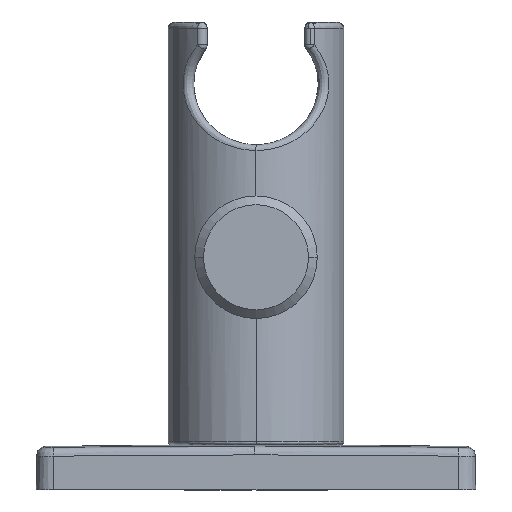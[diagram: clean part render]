
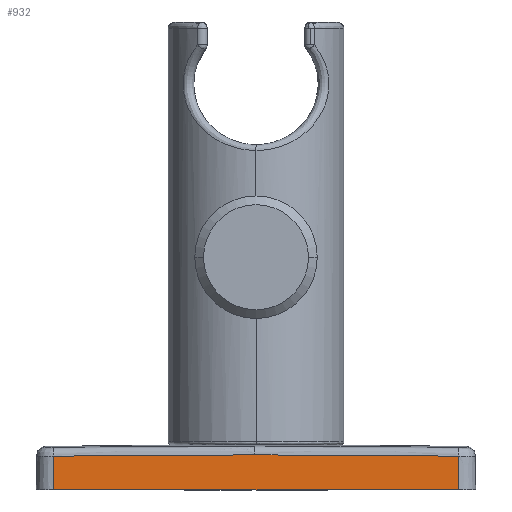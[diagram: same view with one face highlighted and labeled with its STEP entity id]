
A CAD part, front view. The second image highlights one B-rep face of the part: STEP entity #932.
In plain terms, the highlighted planar face has unit normal (0, -1, 0.018).
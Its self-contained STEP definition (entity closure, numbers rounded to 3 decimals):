
#42 = CARTESIAN_POINT ( 'NONE',  ( -34.5, -9047.649, -499000. ) ) ;
#136 = ORIENTED_EDGE ( 'NONE', *, *, #480, .T. ) ;
#169 = VERTEX_POINT ( 'NONE', #2409 ) ;
#373 = DIRECTION ( 'NONE',  ( 0., 0.017, 1. ) ) ;
#408 = EDGE_CURVE ( 'NONE', #1371, #169, #4665, .T. ) ;
#480 = EDGE_CURVE ( 'NONE', #1312, #3260, #1881, .T. ) ;
#517 = CARTESIAN_POINT ( 'NONE',  ( 11.383, -337.39, 10.393 ) ) ;
#555 = AXIS2_PLACEMENT_3D ( 'NONE', #3817, #4201, #2242 ) ;
#657 = FACE_OUTER_BOUND ( 'NONE', #2289, .T. ) ;
#682 = CARTESIAN_POINT ( 'NONE',  ( 34.5, -337.495, 4.405 ) ) ;
#932 = ADVANCED_FACE ( 'NONE', ( #657 ), #1847, .T. ) ;
#1304 = EDGE_CURVE ( 'NONE', #1371, #1671, #1400, .T. ) ;
#1312 = VERTEX_POINT ( 'NONE', #2597 ) ;
#1317 = ORIENTED_EDGE ( 'NONE', *, *, #5001, .T. ) ;
#1371 = VERTEX_POINT ( 'NONE', #682 ) ;
#1377 = CARTESIAN_POINT ( 'NONE',  ( 22.942, -337.391, 10.321 ) ) ;
#1400 = LINE ( 'NONE', #2976, #2984 ) ;
#1429 = ORIENTED_EDGE ( 'NONE', *, *, #408, .T. ) ;
#1522 = DIRECTION ( 'NONE',  ( 0., 0.017, 1. ) ) ;
#1612 = CARTESIAN_POINT ( 'NONE',  ( -11.617, -337.39, 10.392 ) ) ;
#1662 = CARTESIAN_POINT ( 'NONE',  ( -34.5, -337.394, 10.176 ) ) ;
#1671 = VERTEX_POINT ( 'NONE', #2032 ) ;
#1675 = EDGE_CURVE ( 'NONE', #1671, #3260, #3596, .T. ) ;
#1847 = PLANE ( 'NONE',  #555 ) ;
#1881 = B_SPLINE_CURVE_WITH_KNOTS ( 'NONE', 3,
 ( #3879, #1612, #3200, #4768 ),
 .UNSPECIFIED., .F., .F.,
 ( 4, 4 ),
 ( 0.503, 1. ),
 .UNSPECIFIED. ) ;
#2032 = CARTESIAN_POINT ( 'NONE',  ( -34.5, -337.495, 4.405 ) ) ;
#2242 = DIRECTION ( 'NONE',  ( 0., -0.017, -1. ) ) ;
#2289 = EDGE_LOOP ( 'NONE', ( #4044, #3100, #1429, #1317, #136 ) ) ;
#2409 = CARTESIAN_POINT ( 'NONE',  ( 34.5, -337.394, 10.176 ) ) ;
#2595 = CARTESIAN_POINT ( 'NONE',  ( 34.5, -337.394, 10.176 ) ) ;
#2597 = CARTESIAN_POINT ( 'NONE',  ( -0.175, -337.39, 10.392 ) ) ;
#2899 = CARTESIAN_POINT ( 'NONE',  ( -0.175, -337.39, 10.392 ) ) ;
#2976 = CARTESIAN_POINT ( 'NONE',  ( -34.658, -337.495, 4.405 ) ) ;
#2984 = VECTOR ( 'NONE', #4556, 1000. ) ;
#3100 = ORIENTED_EDGE ( 'NONE', *, *, #1304, .F. ) ;
#3155 = VECTOR ( 'NONE', #373, 1000. ) ;
#3200 = CARTESIAN_POINT ( 'NONE',  ( -23.058, -337.391, 10.32 ) ) ;
#3260 = VERTEX_POINT ( 'NONE', #1662 ) ;
#3315 = VECTOR ( 'NONE', #1522, 1000. ) ;
#3596 = LINE ( 'NONE', #42, #3315 ) ;
#3817 = CARTESIAN_POINT ( 'NONE',  ( 37.781, -337.5, 4.1 ) ) ;
#3879 = CARTESIAN_POINT ( 'NONE',  ( -0.175, -337.39, 10.392 ) ) ;
#3928 = CARTESIAN_POINT ( 'NONE',  ( 34.5, -337.5, 4.1 ) ) ;
#4044 = ORIENTED_EDGE ( 'NONE', *, *, #1675, .F. ) ;
#4201 = DIRECTION ( 'NONE',  ( 0., -1., 0.017 ) ) ;
#4533 = B_SPLINE_CURVE_WITH_KNOTS ( 'NONE', 3,
 ( #2595, #1377, #517, #2899 ),
 .UNSPECIFIED., .F., .F.,
 ( 4, 4 ),
 ( 0., 0.503 ),
 .UNSPECIFIED. ) ;
#4556 = DIRECTION ( 'NONE',  ( -1., 0., 0. ) ) ;
#4665 = LINE ( 'NONE', #3928, #3155 ) ;
#4768 = CARTESIAN_POINT ( 'NONE',  ( -34.5, -337.394, 10.176 ) ) ;
#5001 = EDGE_CURVE ( 'NONE', #169, #1312, #4533, .T. ) ;
